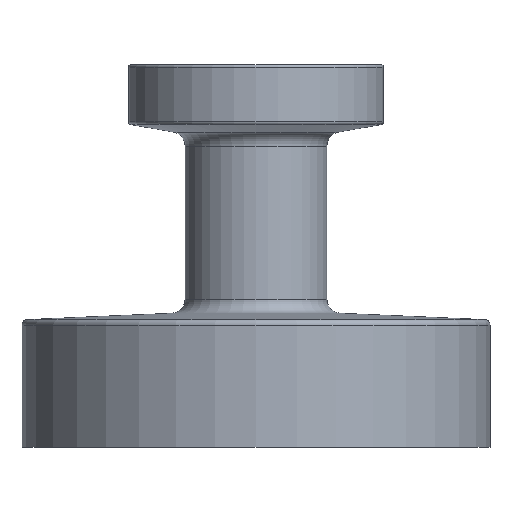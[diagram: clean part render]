
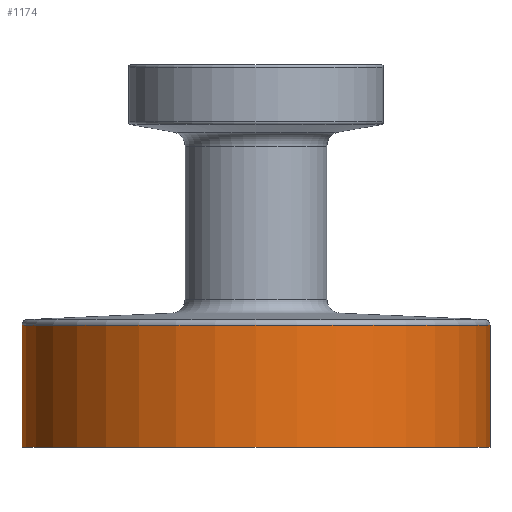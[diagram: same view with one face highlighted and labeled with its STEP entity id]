
A CAD part, left-side view. The second image highlights one B-rep face of the part: STEP entity #1174.
In plain terms, the highlighted cylindrical face has radius 16.5 mm (diameter 33 mm), a partial arc.
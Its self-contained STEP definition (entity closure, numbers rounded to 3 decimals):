
#203=DIRECTION('',(0.,0.,-1.));
#204=VECTOR('',#203,8.617);
#205=CARTESIAN_POINT('',(0.,-16.5,8.617));
#206=LINE('',#205,#204);
#207=DIRECTION('',(0.,0.,-1.));
#208=VECTOR('',#207,8.617);
#209=CARTESIAN_POINT('',(0.,16.5,8.617));
#210=LINE('',#209,#208);
#211=CARTESIAN_POINT('',(0.,0.,8.617));
#212=DIRECTION('',(0.,0.,-1.));
#213=DIRECTION('',(0.,-1.,0.));
#214=AXIS2_PLACEMENT_3D('',#211,#212,#213);
#221=CARTESIAN_POINT('',(0.,0.,0.));
#222=DIRECTION('',(0.,0.,-1.));
#223=DIRECTION('',(0.,-1.,0.));
#224=AXIS2_PLACEMENT_3D('',#221,#222,#223);
#753=CARTESIAN_POINT('',(0.,-16.5,0.));
#754=CARTESIAN_POINT('',(0.,16.5,0.));
#755=VERTEX_POINT('',#753);
#756=VERTEX_POINT('',#754);
#757=CARTESIAN_POINT('',(0.,16.5,8.617));
#758=CARTESIAN_POINT('',(0.,-16.5,8.617));
#759=VERTEX_POINT('',#757);
#760=VERTEX_POINT('',#758);
#1161=CARTESIAN_POINT('',(0.,0.,-1.35));
#1162=DIRECTION('',(0.,0.,1.));
#1163=DIRECTION('',(0.,1.,0.));
#1164=AXIS2_PLACEMENT_3D('',#1161,#1162,#1163);
#1165=CYLINDRICAL_SURFACE('',#1164,16.5);
#1166=ORIENTED_EDGE('',*,*,#1150,.T.);
#1168=ORIENTED_EDGE('',*,*,#1167,.T.);
#1169=ORIENTED_EDGE('',*,*,#1146,.F.);
#1171=ORIENTED_EDGE('',*,*,#1170,.F.);
#1172=EDGE_LOOP('',(#1166,#1168,#1169,#1171));
#1173=FACE_OUTER_BOUND('',#1172,.F.);
#1174=ADVANCED_FACE('',(#1173),#1165,.T.);
#215=CIRCLE('',#214,16.5);
#225=CIRCLE('',#224,16.5);
#1146=EDGE_CURVE('',#759,#756,#210,.T.);
#1150=EDGE_CURVE('',#760,#755,#206,.T.);
#1167=EDGE_CURVE('',#755,#756,#225,.T.);
#1170=EDGE_CURVE('',#760,#759,#215,.T.);
